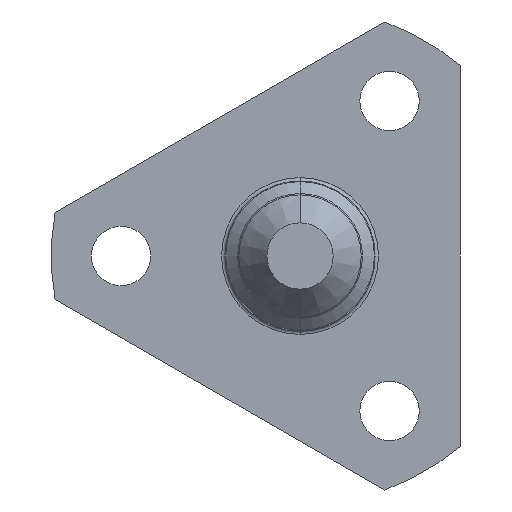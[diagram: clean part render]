
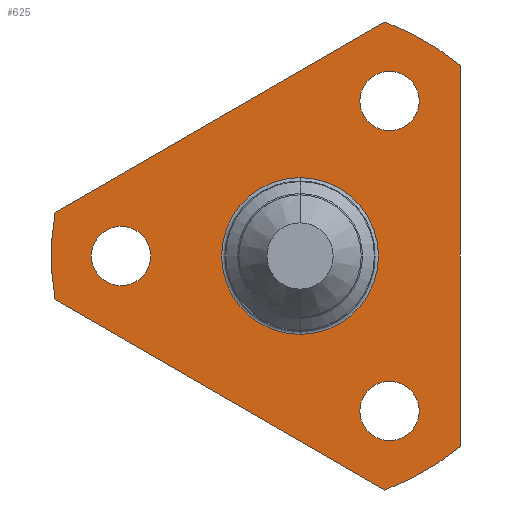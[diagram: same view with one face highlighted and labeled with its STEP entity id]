
A CAD part, left-side view. The second image highlights one B-rep face of the part: STEP entity #625.
In plain terms, the highlighted planar face has unit normal (-1, 0, 0).
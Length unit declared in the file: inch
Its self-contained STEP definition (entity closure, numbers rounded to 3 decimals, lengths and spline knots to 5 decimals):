
#4 = VERTEX_POINT ( 'NONE', #892 ) ;
#12 = CARTESIAN_POINT ( 'NONE',  ( -0.06, 0.71376, 0.12715 ) ) ;
#24 = DIRECTION ( 'NONE',  ( 0., 0., -1. ) ) ;
#26 = DIRECTION ( 'NONE',  ( 0., -0.866, 0.5 ) ) ;
#28 = EDGE_CURVE ( 'NONE', #572, #1034, #412, .T. ) ;
#35 = AXIS2_PLACEMENT_3D ( 'NONE', #368, #245, #350 ) ;
#41 = CARTESIAN_POINT ( 'NONE',  ( -0.06, -0.467, -0.55456 ) ) ;
#43 = ORIENTED_EDGE ( 'NONE', *, *, #924, .F. ) ;
#45 = EDGE_LOOP ( 'NONE', ( #255, #479 ) ) ;
#53 = DIRECTION ( 'NONE',  ( 1., 0., 0. ) ) ;
#57 = CARTESIAN_POINT ( 'NONE',  ( -0.06, -0.26075, 0.45163 ) ) ;
#84 = VERTEX_POINT ( 'NONE', #452 ) ;
#88 = CARTESIAN_POINT ( 'NONE',  ( -0.06, 0.71376, 0.12715 ) ) ;
#91 = ORIENTED_EDGE ( 'NONE', *, *, #444, .T. ) ;
#92 = CARTESIAN_POINT ( 'NONE',  ( -0.06, -0.26075, 0.36513 ) ) ;
#115 = DIRECTION ( 'NONE',  ( 1., 0., 0. ) ) ;
#121 = AXIS2_PLACEMENT_3D ( 'NONE', #213, #334, #24 ) ;
#124 = CIRCLE ( 'NONE', #1250, 0.725 ) ;
#130 = CIRCLE ( 'NONE', #903, 0.0865 ) ;
#144 = AXIS2_PLACEMENT_3D ( 'NONE', #1355, #722, #915 ) ;
#145 = CARTESIAN_POINT ( 'NONE',  ( -0.06, 0., 0. ) ) ;
#146 = VECTOR ( 'NONE', #612, 39.37008 ) ;
#149 = EDGE_CURVE ( 'NONE', #656, #84, #1300, .T. ) ;
#150 = DIRECTION ( 'NONE',  ( 1., 0., 0. ) ) ;
#160 = VERTEX_POINT ( 'NONE', #804 ) ;
#165 = VERTEX_POINT ( 'NONE', #674 ) ;
#169 = EDGE_CURVE ( 'NONE', #811, #165, #703, .T. ) ;
#170 = CARTESIAN_POINT ( 'NONE',  ( -0.06, -0.26075, 0.45163 ) ) ;
#195 = EDGE_CURVE ( 'NONE', #1034, #572, #704, .T. ) ;
#213 = CARTESIAN_POINT ( 'NONE',  ( -0.06, 0., 0. ) ) ;
#215 = EDGE_CURVE ( 'NONE', #1202, #160, #278, .T. ) ;
#217 = FACE_BOUND ( 'NONE', #1137, .T. ) ;
#229 = DIRECTION ( 'NONE',  ( 0., 0., -1. ) ) ;
#245 = DIRECTION ( 'NONE',  ( 1., 0., 0. ) ) ;
#255 = ORIENTED_EDGE ( 'NONE', *, *, #169, .T. ) ;
#257 = VECTOR ( 'NONE', #26, 39.37008 ) ;
#267 = CARTESIAN_POINT ( 'NONE',  ( -0.06, -0.26075, -0.45163 ) ) ;
#268 = CARTESIAN_POINT ( 'NONE',  ( -0.06, 0., 0. ) ) ;
#272 = CIRCLE ( 'NONE', #144, 0.725 ) ;
#276 = AXIS2_PLACEMENT_3D ( 'NONE', #268, #1124, #353 ) ;
#278 = CIRCLE ( 'NONE', #774, 0.0865 ) ;
#293 = AXIS2_PLACEMENT_3D ( 'NONE', #57, #371, #229 ) ;
#295 = LINE ( 'NONE', #840, #146 ) ;
#321 = DIRECTION ( 'NONE',  ( 0., 0., -1. ) ) ;
#329 = CARTESIAN_POINT ( 'NONE',  ( -0.06, -0.26075, -0.45163 ) ) ;
#334 = DIRECTION ( 'NONE',  ( 1., 0., 0. ) ) ;
#350 = DIRECTION ( 'NONE',  ( 0., 0., -1. ) ) ;
#353 = DIRECTION ( 'NONE',  ( 0., 0., -1. ) ) ;
#354 = ORIENTED_EDGE ( 'NONE', *, *, #1366, .F. ) ;
#368 = CARTESIAN_POINT ( 'NONE',  ( -0.06, 0., 0. ) ) ;
#371 = DIRECTION ( 'NONE',  ( 1., 0., 0. ) ) ;
#376 = DIRECTION ( 'NONE',  ( 1., 0., 0. ) ) ;
#392 = VERTEX_POINT ( 'NONE', #912 ) ;
#402 = CIRCLE ( 'NONE', #35, 0.2285 ) ;
#403 = AXIS2_PLACEMENT_3D ( 'NONE', #958, #1267, #321 ) ;
#412 = CIRCLE ( 'NONE', #569, 0.0865 ) ;
#413 = FACE_BOUND ( 'NONE', #45, .T. ) ;
#444 = EDGE_CURVE ( 'NONE', #160, #1202, #130, .T. ) ;
#452 = CARTESIAN_POINT ( 'NONE',  ( -0.06, 0., -0.2285 ) ) ;
#473 = ORIENTED_EDGE ( 'NONE', *, *, #195, .T. ) ;
#479 = ORIENTED_EDGE ( 'NONE', *, *, #702, .T. ) ;
#497 = ORIENTED_EDGE ( 'NONE', *, *, #1266, .F. ) ;
#507 = EDGE_CURVE ( 'NONE', #536, #1296, #980, .T. ) ;
#511 = LINE ( 'NONE', #951, #1012 ) ;
#523 = VERTEX_POINT ( 'NONE', #729 ) ;
#529 = PLANE ( 'NONE',  #403 ) ;
#532 = EDGE_LOOP ( 'NONE', ( #737, #473 ) ) ;
#536 = VERTEX_POINT ( 'NONE', #88 ) ;
#551 = DIRECTION ( 'NONE',  ( 1., 0., 0. ) ) ;
#558 = EDGE_CURVE ( 'NONE', #4, #392, #295, .T. ) ;
#569 = AXIS2_PLACEMENT_3D ( 'NONE', #267, #376, #1200 ) ;
#570 = DIRECTION ( 'NONE',  ( 0., 0., -1. ) ) ;
#572 = VERTEX_POINT ( 'NONE', #1160 ) ;
#601 = CARTESIAN_POINT ( 'NONE',  ( -0.06, -0.24676, 0.68171 ) ) ;
#612 = DIRECTION ( 'NONE',  ( 0., 0.866, 0.5 ) ) ;
#617 = EDGE_LOOP ( 'NONE', ( #1203, #887 ) ) ;
#625 = ADVANCED_FACE ( 'NONE', ( #1368, #217, #413, #1174, #635 ), #529, .F. ) ;
#635 = FACE_OUTER_BOUND ( 'NONE', #759, .T. ) ;
#656 = VERTEX_POINT ( 'NONE', #1096 ) ;
#674 = CARTESIAN_POINT ( 'NONE',  ( -0.06, -0.26075, 0.53813 ) ) ;
#685 = DIRECTION ( 'NONE',  ( 0., 0., -1. ) ) ;
#702 = EDGE_CURVE ( 'NONE', #165, #811, #743, .T. ) ;
#703 = CIRCLE ( 'NONE', #747, 0.0865 ) ;
#704 = CIRCLE ( 'NONE', #1134, 0.0865 ) ;
#722 = DIRECTION ( 'NONE',  ( 1., 0., 0. ) ) ;
#729 = CARTESIAN_POINT ( 'NONE',  ( -0.06, -0.467, 0.55456 ) ) ;
#737 = ORIENTED_EDGE ( 'NONE', *, *, #28, .T. ) ;
#743 = CIRCLE ( 'NONE', #293, 0.0865 ) ;
#746 = DIRECTION ( 'NONE',  ( 0., 0., -1. ) ) ;
#747 = AXIS2_PLACEMENT_3D ( 'NONE', #170, #150, #570 ) ;
#759 = EDGE_LOOP ( 'NONE', ( #1172, #1006, #43, #354, #497, #772 ) ) ;
#772 = ORIENTED_EDGE ( 'NONE', *, *, #507, .F. ) ;
#774 = AXIS2_PLACEMENT_3D ( 'NONE', #1169, #115, #870 ) ;
#804 = CARTESIAN_POINT ( 'NONE',  ( -0.06, 0.5215, -0.0865 ) ) ;
#811 = VERTEX_POINT ( 'NONE', #92 ) ;
#840 = CARTESIAN_POINT ( 'NONE',  ( -0.06, 0.71376, -0.12715 ) ) ;
#870 = DIRECTION ( 'NONE',  ( 0., 0., -1. ) ) ;
#885 = DIRECTION ( 'NONE',  ( 0., 0., -1. ) ) ;
#887 = ORIENTED_EDGE ( 'NONE', *, *, #149, .T. ) ;
#892 = CARTESIAN_POINT ( 'NONE',  ( -0.06, -0.24676, -0.68171 ) ) ;
#903 = AXIS2_PLACEMENT_3D ( 'NONE', #986, #1298, #1101 ) ;
#904 = ORIENTED_EDGE ( 'NONE', *, *, #215, .T. ) ;
#912 = CARTESIAN_POINT ( 'NONE',  ( -0.06, 0.71376, -0.12715 ) ) ;
#915 = DIRECTION ( 'NONE',  ( 0., 0., -1. ) ) ;
#924 = EDGE_CURVE ( 'NONE', #1121, #4, #1322, .T. ) ;
#951 = CARTESIAN_POINT ( 'NONE',  ( -0.06, -0.467, 0.55456 ) ) ;
#958 = CARTESIAN_POINT ( 'NONE',  ( -0.06, 0., 0. ) ) ;
#980 = LINE ( 'NONE', #12, #257 ) ;
#986 = CARTESIAN_POINT ( 'NONE',  ( -0.06, 0.5215, 0. ) ) ;
#1006 = ORIENTED_EDGE ( 'NONE', *, *, #558, .F. ) ;
#1012 = VECTOR ( 'NONE', #746, 39.37008 ) ;
#1034 = VERTEX_POINT ( 'NONE', #1120 ) ;
#1096 = CARTESIAN_POINT ( 'NONE',  ( -0.06, 0., 0.2285 ) ) ;
#1101 = DIRECTION ( 'NONE',  ( 0., 0., -1. ) ) ;
#1120 = CARTESIAN_POINT ( 'NONE',  ( -0.06, -0.26075, -0.36513 ) ) ;
#1121 = VERTEX_POINT ( 'NONE', #41 ) ;
#1124 = DIRECTION ( 'NONE',  ( 1., 0., 0. ) ) ;
#1134 = AXIS2_PLACEMENT_3D ( 'NONE', #329, #551, #885 ) ;
#1137 = EDGE_LOOP ( 'NONE', ( #91, #904 ) ) ;
#1140 = EDGE_CURVE ( 'NONE', #392, #536, #124, .T. ) ;
#1142 = CARTESIAN_POINT ( 'NONE',  ( -0.06, 0.5215, 0.0865 ) ) ;
#1160 = CARTESIAN_POINT ( 'NONE',  ( -0.06, -0.26075, -0.53813 ) ) ;
#1169 = CARTESIAN_POINT ( 'NONE',  ( -0.06, 0.5215, 0. ) ) ;
#1172 = ORIENTED_EDGE ( 'NONE', *, *, #1140, .F. ) ;
#1174 = FACE_BOUND ( 'NONE', #532, .T. ) ;
#1178 = EDGE_CURVE ( 'NONE', #84, #656, #402, .T. ) ;
#1200 = DIRECTION ( 'NONE',  ( 0., 0., -1. ) ) ;
#1202 = VERTEX_POINT ( 'NONE', #1142 ) ;
#1203 = ORIENTED_EDGE ( 'NONE', *, *, #1178, .T. ) ;
#1250 = AXIS2_PLACEMENT_3D ( 'NONE', #145, #53, #685 ) ;
#1266 = EDGE_CURVE ( 'NONE', #1296, #523, #272, .T. ) ;
#1267 = DIRECTION ( 'NONE',  ( 1., 0., 0. ) ) ;
#1296 = VERTEX_POINT ( 'NONE', #601 ) ;
#1298 = DIRECTION ( 'NONE',  ( 1., 0., 0. ) ) ;
#1300 = CIRCLE ( 'NONE', #276, 0.2285 ) ;
#1322 = CIRCLE ( 'NONE', #121, 0.725 ) ;
#1355 = CARTESIAN_POINT ( 'NONE',  ( -0.06, 0., 0. ) ) ;
#1366 = EDGE_CURVE ( 'NONE', #523, #1121, #511, .T. ) ;
#1368 = FACE_BOUND ( 'NONE', #617, .T. ) ;
